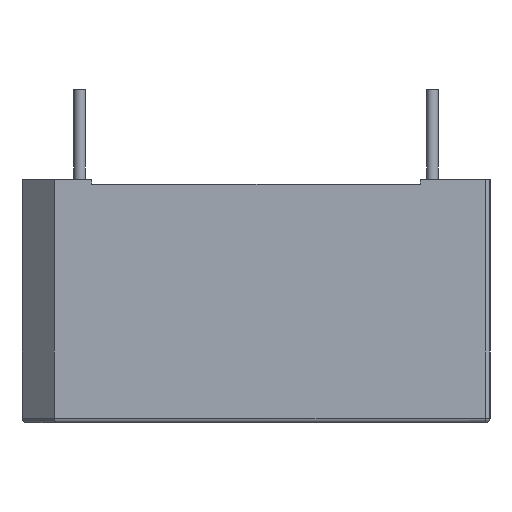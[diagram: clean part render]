
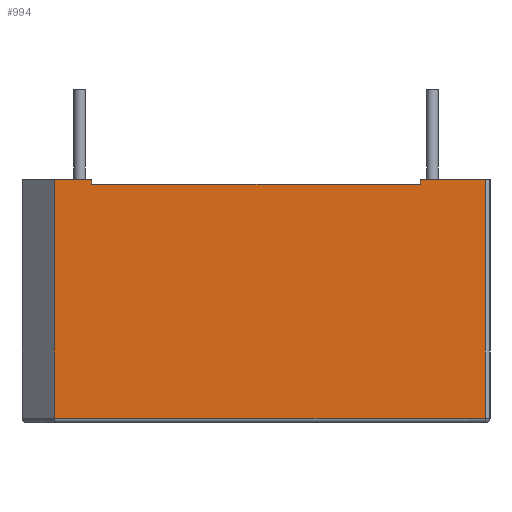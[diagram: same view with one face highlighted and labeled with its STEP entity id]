
A CAD part, left-side view. The second image highlights one B-rep face of the part: STEP entity #994.
In plain terms, the highlighted planar face has unit normal (-1, 0, 0).
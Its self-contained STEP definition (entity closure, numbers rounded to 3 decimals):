
#492=CARTESIAN_POINT('',(-15.85,-9.9,0.2));
#493=VERTEX_POINT('',#492);
#739=CARTESIAN_POINT('',(-15.85,-9.9,10.5));
#740=VERTEX_POINT('',#739);
#748=CARTESIAN_POINT('',(-15.85,-9.9,10.5));
#749=DIRECTION('',(0.0,0.0,-1.0));
#750=VECTOR('',#749,10.3);
#751=LINE('',#748,#750);
#752=EDGE_CURVE('',#740,#493,#751,.T.);
#778=CARTESIAN_POINT('',(-15.85,8.7,0.2));
#779=VERTEX_POINT('',#778);
#780=CARTESIAN_POINT('',(-15.85,-9.9,0.2));
#781=DIRECTION('',(0.0,1.0,0.0));
#782=VECTOR('',#781,18.6);
#783=LINE('',#780,#782);
#784=EDGE_CURVE('',#493,#779,#783,.T.);
#928=CARTESIAN_POINT('',(-15.85,8.7,10.5));
#929=VERTEX_POINT('',#928);
#930=CARTESIAN_POINT('',(-15.85,8.7,0.2));
#931=DIRECTION('',(0.0,0.0,1.0));
#932=VECTOR('',#931,10.3);
#933=LINE('',#930,#932);
#934=EDGE_CURVE('',#779,#929,#933,.T.);
#946=CARTESIAN_POINT('',(-15.85,-10.1,0.0));
#947=DIRECTION('',(-1.0,0.0,0.0));
#948=DIRECTION('',(0.0,0.0,1.0));
#949=AXIS2_PLACEMENT_3D('',#946,#947,#948);
#950=PLANE('',#949);
#951=ORIENTED_EDGE('',*,*,#784,.F.);
#952=ORIENTED_EDGE('',*,*,#752,.F.);
#953=CARTESIAN_POINT('',(-15.85,-7.1,10.5));
#954=VERTEX_POINT('',#953);
#955=CARTESIAN_POINT('',(-15.85,-9.9,10.5));
#956=DIRECTION('',(0.0,1.0,0.0));
#957=VECTOR('',#956,2.8);
#958=LINE('',#955,#957);
#959=EDGE_CURVE('',#740,#954,#958,.T.);
#960=ORIENTED_EDGE('',*,*,#959,.T.);
#961=CARTESIAN_POINT('',(-15.85,-7.1,10.3));
#962=VERTEX_POINT('',#961);
#963=CARTESIAN_POINT('',(-15.85,-7.1,10.5));
#964=DIRECTION('',(0.0,0.0,-1.0));
#965=VECTOR('',#964,0.2);
#966=LINE('',#963,#965);
#967=EDGE_CURVE('',#954,#962,#966,.T.);
#968=ORIENTED_EDGE('',*,*,#967,.T.);
#969=CARTESIAN_POINT('',(-15.85,7.1,10.3));
#970=VERTEX_POINT('',#969);
#971=CARTESIAN_POINT('',(-15.85,-7.1,10.3));
#972=DIRECTION('',(0.0,1.0,0.0));
#973=VECTOR('',#972,14.2);
#974=LINE('',#971,#973);
#975=EDGE_CURVE('',#962,#970,#974,.T.);
#976=ORIENTED_EDGE('',*,*,#975,.T.);
#977=CARTESIAN_POINT('',(-15.85,7.1,10.5));
#978=VERTEX_POINT('',#977);
#979=CARTESIAN_POINT('',(-15.85,7.1,10.3));
#980=DIRECTION('',(0.0,0.0,1.0));
#981=VECTOR('',#980,0.2);
#982=LINE('',#979,#981);
#983=EDGE_CURVE('',#970,#978,#982,.T.);
#984=ORIENTED_EDGE('',*,*,#983,.T.);
#985=CARTESIAN_POINT('',(-15.85,7.1,10.5));
#986=DIRECTION('',(0.0,1.0,0.0));
#987=VECTOR('',#986,1.6);
#988=LINE('',#985,#987);
#989=EDGE_CURVE('',#978,#929,#988,.T.);
#990=ORIENTED_EDGE('',*,*,#989,.T.);
#991=ORIENTED_EDGE('',*,*,#934,.F.);
#992=EDGE_LOOP('',(#951,#952,#960,#968,#976,#984,#990,#991));
#993=FACE_OUTER_BOUND('',#992,.T.);
#994=ADVANCED_FACE('',(#993),#950,.T.);
